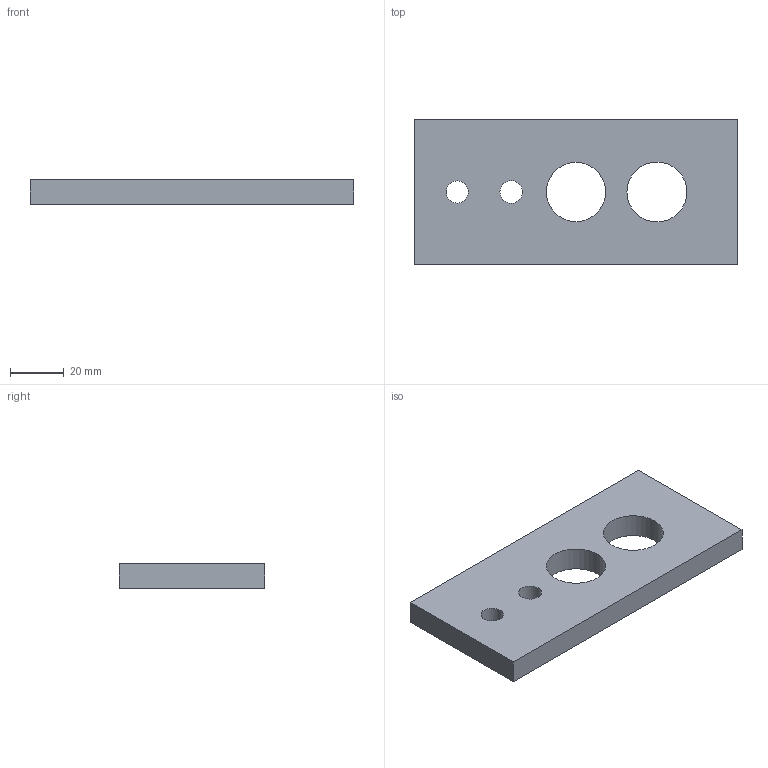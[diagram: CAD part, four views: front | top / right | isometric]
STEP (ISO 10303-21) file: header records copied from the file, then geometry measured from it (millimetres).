
FILE_DESCRIPTION(('Open CASCADE Model'),'2;1');
FILE_NAME('Open CASCADE Shape Model','2026-10-26T17:58:53',('Author'),( 'Open CASCADE'),'Open CASCADE STEP processor 7.9','Open CASCADE 7.9' ,'Unknown');
FILE_SCHEMA(('AUTOMOTIVE_DESIGN { 1 0 10303 214 1 1 1 1 }'));
Length unit declared in the file: millimetre
Products named in the file (1): Open CASCADE STEP translator 7.9 22
Bounding box: 120 x 54 x 9 mm (x, y, z)
Volume: 50441.1 mm3; surface area: 16060.2 mm2
Topology: 1 solids, 1 shells, 10 faces, 24 edges, 16 vertices
Faces by surface type: plane 6, cylinder 4
Full cylindrical faces by diameter (mm): 8.2 x1, 8.4 x1, 22 x1, 22.2 x1
Entity records: 634 total; most frequent: DIRECTION 102, CARTESIAN_POINT 99, LINE 56, VECTOR 56, ORIENTED_EDGE 48, PCURVE 48, DEFINITIONAL_REPRESENTATION 48, EDGE_CURVE 24
